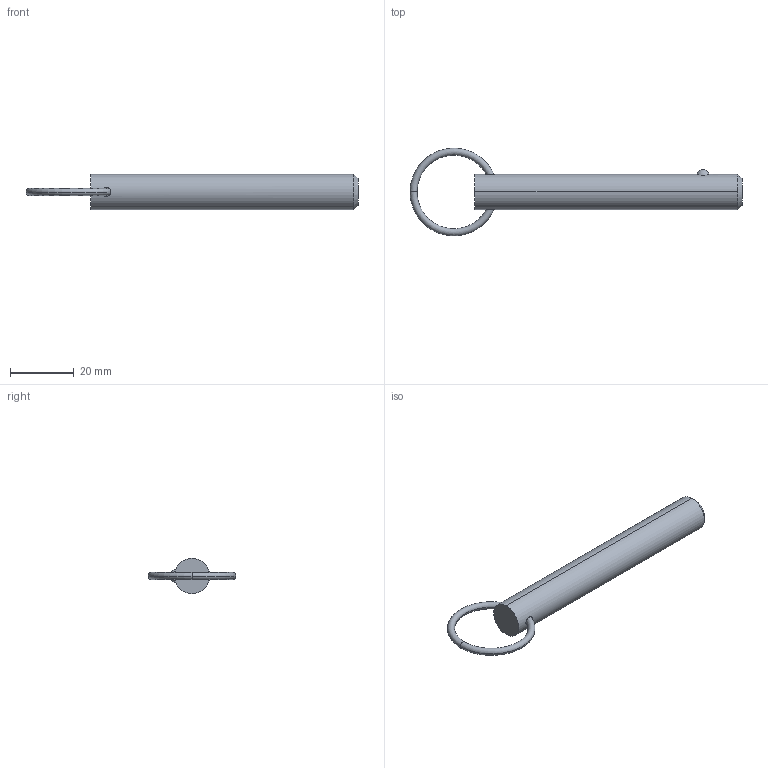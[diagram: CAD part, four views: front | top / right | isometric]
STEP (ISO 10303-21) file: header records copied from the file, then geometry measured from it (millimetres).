
FILE_DESCRIPTION (( 'STEP AP203' ), '1' );
FILE_NAME ('33012.W4325.step', '2024-11-01T14:11:27', ( '' ), ( '' ), 'SwSTEP 2.0', 'SolidWorks 2019', '' );
FILE_SCHEMA (( 'CONFIG_CONTROL_DESIGN' ));
Length unit declared in the file: millimetre
Products named in the file (3): 33012.W4325; Part1_33012.W4325; Part2_33012.W4325
Assembly tree (2 placements, depth 2):
  33012.W4325
    Part1_33012.W4325
    Part2_33012.W4325
Bounding box: 104.53 x 27.62 x 11.11 mm (x, y, z)
Volume: 8376.3 mm3; surface area: 3749.9 mm2
Topology: 2 solids, 2 shells, 16 faces, 31 edges, 18 vertices
Faces by surface type: torus 8, sphere 2, cone 2, cylinder 2, plane 2
Entity records: 863 total; most frequent: CARTESIAN_POINT 220, DIRECTION 88, ORIENTED_EDGE 62, AXIS2_PLACEMENT_3D 42, EDGE_CURVE 31, PERSON_AND_ORGANIZATION 26, CIRCLE 21, DATE_AND_TIME 19
